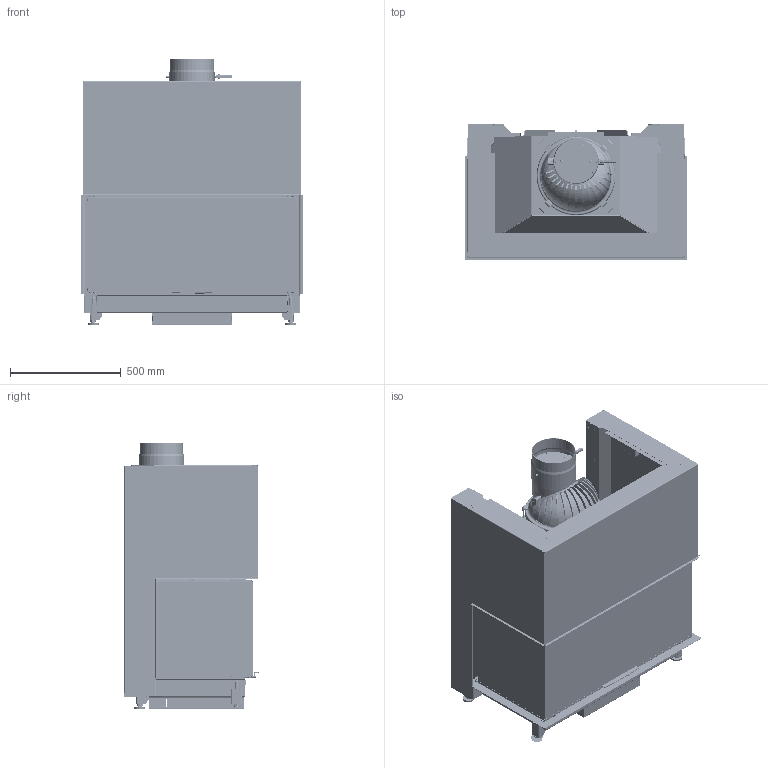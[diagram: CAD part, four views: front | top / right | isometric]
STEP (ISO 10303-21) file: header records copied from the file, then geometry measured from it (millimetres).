
FILE_DESCRIPTION(/* description */ (''),/* implementation_level */ '2;1');
FILE_NAME(/* name */ 'C:\ADSK_DM_WS\CAD_3D\03 Geraete\RIII 45x100x46\Zeichnungen\RIII 45x100x46 ohne Mantel Abgang oben CAD Planung defriten 2021-03075 211124.stp',/* time_stamp */ '2021-11-24T08:44:56+01:00',/* author */ ('CPI'),/* organization */ (''),/* preprocessor_version */ 'ST-DEVELOPER v18.1',/* originating_system */ 'Autodesk Inventor 2022',/* authorisation */ '');
FILE_SCHEMA (('AUTOMOTIVE_DESIGN { 1 0 10303 214 3 1 1 }'));
Products named in the file (8): 2021-03075; 2021-03057; 2021-03069; 2021-03066; 2021-03064; 2021-03062; 2021-03071; 2018-00985
Assembly tree (7 placements, depth 2):
  2021-03075
    2021-03057
    2021-03069
    2021-03066
    2021-03064
    2021-03062
    2021-03071
    2018-00985
Bounding box: 1000 x 612 x 1199 mm (x, y, z)
Volume: 33160530.4 mm3; surface area: 17862865.3 mm2
Topology: 15 solids, 30 shells, 8832 faces, 24294 edges, 15317 vertices
Faces by surface type: plane 5306, cylinder 3052, bspline 286, cone 123, torus 64, sphere 1
Full cylindrical faces by diameter (mm): 3.242 x6, 4.8 x5, 6 x6, 7 x11, 7.9 x2, 8 x8, 9 x2, 9.5 x4, 10 x7, 10.21 x4, 11.192 x2, 12 x4, 16 x10, 18 x4, 20 x4, 30 x4, 163 x1, 194 x1, 198 x1, 200 x1, 204 x1, 333 x1, 339 x1
Entity records: 296412 total; most frequent: CARTESIAN_POINT 64070, ORIENTED_EDGE 48534, DIRECTION 47365, EDGE_CURVE 24324, LINE 16095, VECTOR 16095, AXIS2_PLACEMENT_3D 15635, VERTEX_POINT 15314
